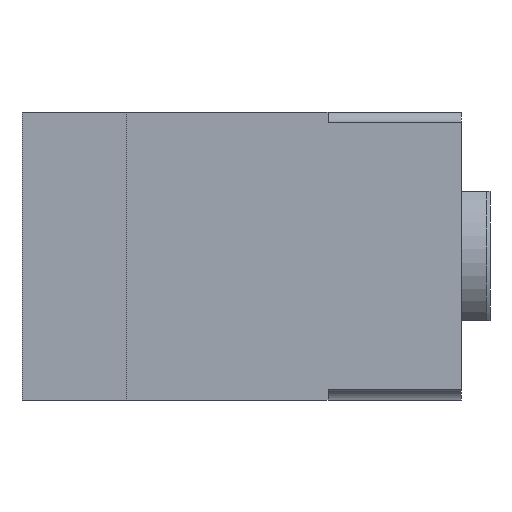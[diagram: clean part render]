
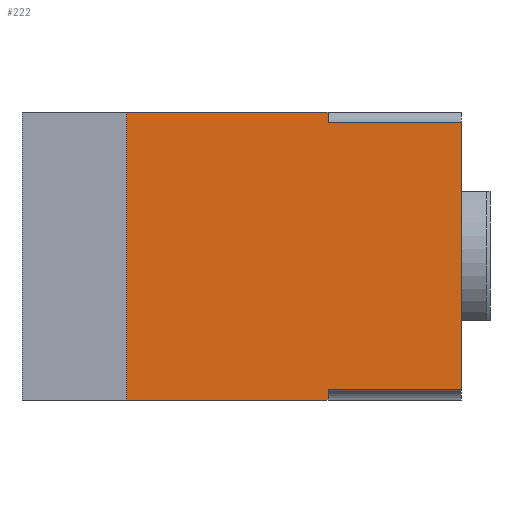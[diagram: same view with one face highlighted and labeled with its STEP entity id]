
A CAD part, front view. The second image highlights one B-rep face of the part: STEP entity #222.
In plain terms, the highlighted planar face has unit normal (0, -1, 0).
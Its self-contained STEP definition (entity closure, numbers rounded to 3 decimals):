
#222 = ADVANCED_FACE( '', ( #541 ), #542, .T. );
#541 = FACE_OUTER_BOUND( '', #982, .T. );
#542 = PLANE( '', #983 );
#982 = EDGE_LOOP( '', ( #1582, #1583, #1584, #1585, #1586, #1587, #1588, #1589 ) );
#983 = AXIS2_PLACEMENT_3D( '', #1590, #1591, #1592 );
#1582 = ORIENTED_EDGE( '', *, *, #2433, .T. );
#1583 = ORIENTED_EDGE( '', *, *, #2434, .T. );
#1584 = ORIENTED_EDGE( '', *, *, #2435, .F. );
#1585 = ORIENTED_EDGE( '', *, *, #2436, .T. );
#1586 = ORIENTED_EDGE( '', *, *, #2393, .T. );
#1587 = ORIENTED_EDGE( '', *, *, #2437, .T. );
#1588 = ORIENTED_EDGE( '', *, *, #2416, .T. );
#1589 = ORIENTED_EDGE( '', *, *, #2363, .F. );
#1590 = CARTESIAN_POINT( '', ( 61., -17., 20. ) );
#1591 = DIRECTION( '', ( 0., -1., 0. ) );
#1592 = DIRECTION( '', ( 0., 0., -1. ) );
#2363 = EDGE_CURVE( '', #2802, #2804, #2805, .T. );
#2393 = EDGE_CURVE( '', #2852, #2850, #2853, .T. );
#2416 = EDGE_CURVE( '', #2890, #2804, #2891, .T. );
#2433 = EDGE_CURVE( '', #2802, #2915, #2916, .T. );
#2434 = EDGE_CURVE( '', #2915, #2917, #2918, .T. );
#2435 = EDGE_CURVE( '', #2919, #2917, #2920, .T. );
#2436 = EDGE_CURVE( '', #2919, #2852, #2921, .T. );
#2437 = EDGE_CURVE( '', #2850, #2890, #2922, .T. );
#2802 = VERTEX_POINT( '', #3448 );
#2804 = VERTEX_POINT( '', #3451 );
#2805 = LINE( '', #3452, #3453 );
#2850 = VERTEX_POINT( '', #3516 );
#2852 = VERTEX_POINT( '', #3519 );
#2853 = LINE( '', #3520, #3521 );
#2890 = VERTEX_POINT( '', #3621 );
#2891 = LINE( '', #3622, #3623 );
#2915 = VERTEX_POINT( '', #3653 );
#2916 = LINE( '', #3654, #3655 );
#2917 = VERTEX_POINT( '', #3656 );
#2918 = LINE( '', #3657, #3658 );
#2919 = VERTEX_POINT( '', #3659 );
#2920 = LINE( '', #3660, #3661 );
#2921 = LINE( '', #3662, #3663 );
#2922 = LINE( '', #3664, #3665 );
#3448 = CARTESIAN_POINT( '', ( 42.5, -17., -20. ) );
#3451 = CARTESIAN_POINT( '', ( 14.5, -17., -20. ) );
#3452 = CARTESIAN_POINT( '', ( 61., -17., -20. ) );
#3453 = VECTOR( '', #4141, 1000. );
#3516 = CARTESIAN_POINT( '', ( 42.5, -17., 20. ) );
#3519 = CARTESIAN_POINT( '', ( 42.5, -17., 18.5 ) );
#3520 = CARTESIAN_POINT( '', ( 42.5, -17., 20. ) );
#3521 = VECTOR( '', #4170, 1000. );
#3621 = CARTESIAN_POINT( '', ( 14.5, -17., 20. ) );
#3622 = CARTESIAN_POINT( '', ( 14.5, -17., 20. ) );
#3623 = VECTOR( '', #4196, 1000. );
#3653 = CARTESIAN_POINT( '', ( 42.5, -17., -18.5 ) );
#3654 = CARTESIAN_POINT( '', ( 42.5, -17., 20. ) );
#3655 = VECTOR( '', #4215, 1000. );
#3656 = CARTESIAN_POINT( '', ( 61., -17., -18.5 ) );
#3657 = CARTESIAN_POINT( '', ( 61., -17., -18.5 ) );
#3658 = VECTOR( '', #4216, 1000. );
#3659 = CARTESIAN_POINT( '', ( 61., -17., 18.5 ) );
#3660 = CARTESIAN_POINT( '', ( 61., -17., 20. ) );
#3661 = VECTOR( '', #4217, 1000. );
#3662 = CARTESIAN_POINT( '', ( 61., -17., 18.5 ) );
#3663 = VECTOR( '', #4218, 1000. );
#3664 = CARTESIAN_POINT( '', ( 61., -17., 20. ) );
#3665 = VECTOR( '', #4219, 1000. );
#4141 = DIRECTION( '', ( -1., 0., 0. ) );
#4170 = DIRECTION( '', ( 0., 0., 1. ) );
#4196 = DIRECTION( '', ( 0., 0., -1. ) );
#4215 = DIRECTION( '', ( 0., 0., 1. ) );
#4216 = DIRECTION( '', ( 1., 0., 0. ) );
#4217 = DIRECTION( '', ( 0., 0., -1. ) );
#4218 = DIRECTION( '', ( -1., 0., 0. ) );
#4219 = DIRECTION( '', ( -1., 0., 0. ) );
